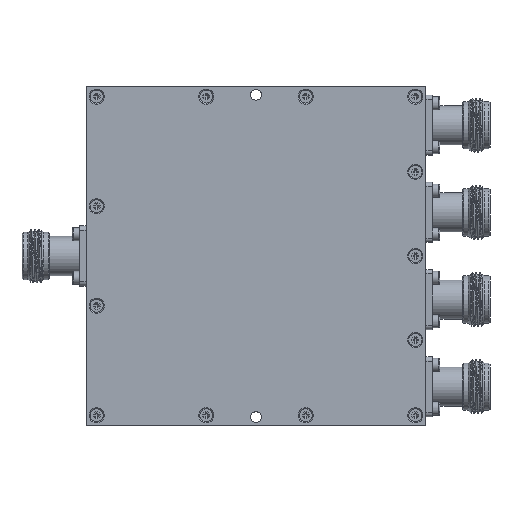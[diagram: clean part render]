
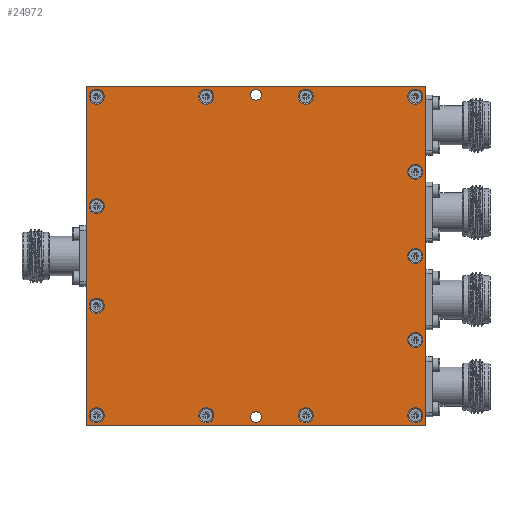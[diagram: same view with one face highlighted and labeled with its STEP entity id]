
A CAD part, top view. The second image highlights one B-rep face of the part: STEP entity #24972.
In plain terms, the highlighted planar face has unit normal (0, 0, 1).
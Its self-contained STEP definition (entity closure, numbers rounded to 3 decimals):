
#539=LINE('',#32933,#1989);
#541=LINE('',#32969,#1991);
#543=LINE('',#32973,#1993);
#545=LINE('',#32985,#1995);
#1989=VECTOR('',#27928,1000.);
#1991=VECTOR('',#27964,1000.);
#1993=VECTOR('',#27968,1000.);
#1995=VECTOR('',#27980,1000.);
#3551=PLANE('',#26408);
#5275=ORIENTED_EDGE('',*,*,#9132,.T.);
#5276=ORIENTED_EDGE('',*,*,#9126,.T.);
#5277=ORIENTED_EDGE('',*,*,#9124,.T.);
#5278=ORIENTED_EDGE('',*,*,#9106,.T.);
#5279=ORIENTED_EDGE('',*,*,#9041,.F.);
#5280=ORIENTED_EDGE('',*,*,#9039,.F.);
#5281=ORIENTED_EDGE('',*,*,#9513,.T.);
#5282=ORIENTED_EDGE('',*,*,#9514,.T.);
#5283=ORIENTED_EDGE('',*,*,#9515,.T.);
#5284=ORIENTED_EDGE('',*,*,#9516,.T.);
#5285=ORIENTED_EDGE('',*,*,#9517,.T.);
#5286=ORIENTED_EDGE('',*,*,#9518,.T.);
#5287=ORIENTED_EDGE('',*,*,#9519,.T.);
#5288=ORIENTED_EDGE('',*,*,#9520,.T.);
#5289=ORIENTED_EDGE('',*,*,#9521,.T.);
#5290=ORIENTED_EDGE('',*,*,#9522,.T.);
#5291=ORIENTED_EDGE('',*,*,#9523,.T.);
#5292=ORIENTED_EDGE('',*,*,#9524,.T.);
#5293=ORIENTED_EDGE('',*,*,#9525,.T.);
#9039=EDGE_CURVE('',#13855,#13855,#11428,.T.);
#9041=EDGE_CURVE('',#13857,#13857,#11430,.T.);
#9106=EDGE_CURVE('',#13904,#13903,#539,.T.);
#9124=EDGE_CURVE('',#13921,#13904,#541,.T.);
#9126=EDGE_CURVE('',#13922,#13921,#543,.T.);
#9132=EDGE_CURVE('',#13903,#13922,#545,.T.);
#9513=EDGE_CURVE('',#14237,#14237,#11612,.T.);
#9514=EDGE_CURVE('',#14238,#14238,#11613,.T.);
#9515=EDGE_CURVE('',#14239,#14239,#11614,.T.);
#9516=EDGE_CURVE('',#14240,#14240,#11615,.T.);
#9517=EDGE_CURVE('',#14241,#14241,#11616,.T.);
#9518=EDGE_CURVE('',#14242,#14242,#11617,.T.);
#9519=EDGE_CURVE('',#14243,#14243,#11618,.T.);
#9520=EDGE_CURVE('',#14244,#14244,#11619,.T.);
#9521=EDGE_CURVE('',#14245,#14245,#11620,.T.);
#9522=EDGE_CURVE('',#14246,#14246,#11621,.T.);
#9523=EDGE_CURVE('',#14247,#14247,#11622,.T.);
#9524=EDGE_CURVE('',#14248,#14248,#11623,.T.);
#9525=EDGE_CURVE('',#14249,#14249,#11624,.T.);
#11428=CIRCLE('',#25947,1.6);
#11430=CIRCLE('',#25950,1.6);
#11612=CIRCLE('',#26409,2.2);
#11613=CIRCLE('',#26410,2.2);
#11614=CIRCLE('',#26411,2.2);
#11615=CIRCLE('',#26412,2.2);
#11616=CIRCLE('',#26413,2.2);
#11617=CIRCLE('',#26414,2.2);
#11618=CIRCLE('',#26415,2.2);
#11619=CIRCLE('',#26416,2.2);
#11620=CIRCLE('',#26417,2.2);
#11621=CIRCLE('',#26418,2.2);
#11622=CIRCLE('',#26419,2.2);
#11623=CIRCLE('',#26420,2.2);
#11624=CIRCLE('',#26421,2.2);
#12543=EDGE_LOOP('',(#5275,#5276,#5277,#5278));
#12544=EDGE_LOOP('',(#5279));
#12545=EDGE_LOOP('',(#5280));
#12546=EDGE_LOOP('',(#5281));
#12547=EDGE_LOOP('',(#5282));
#12548=EDGE_LOOP('',(#5283));
#12549=EDGE_LOOP('',(#5284));
#12550=EDGE_LOOP('',(#5285));
#12551=EDGE_LOOP('',(#5286));
#12552=EDGE_LOOP('',(#5287));
#12553=EDGE_LOOP('',(#5288));
#12554=EDGE_LOOP('',(#5289));
#12555=EDGE_LOOP('',(#5290));
#12556=EDGE_LOOP('',(#5291));
#12557=EDGE_LOOP('',(#5292));
#12558=EDGE_LOOP('',(#5293));
#13855=VERTEX_POINT('',#32796);
#13857=VERTEX_POINT('',#32801);
#13903=VERTEX_POINT('',#32932);
#13904=VERTEX_POINT('',#32934);
#13921=VERTEX_POINT('',#32970);
#13922=VERTEX_POINT('',#32974);
#14237=VERTEX_POINT('',#34098);
#14238=VERTEX_POINT('',#34100);
#14239=VERTEX_POINT('',#34102);
#14240=VERTEX_POINT('',#34104);
#14241=VERTEX_POINT('',#34106);
#14242=VERTEX_POINT('',#34108);
#14243=VERTEX_POINT('',#34110);
#14244=VERTEX_POINT('',#34112);
#14245=VERTEX_POINT('',#34114);
#14246=VERTEX_POINT('',#34116);
#14247=VERTEX_POINT('',#34118);
#14248=VERTEX_POINT('',#34120);
#14249=VERTEX_POINT('',#34122);
#16268=FACE_BOUND('',#12543,.T.);
#16269=FACE_BOUND('',#12544,.T.);
#16270=FACE_BOUND('',#12545,.T.);
#16271=FACE_BOUND('',#12546,.T.);
#16272=FACE_BOUND('',#12547,.T.);
#16273=FACE_BOUND('',#12548,.T.);
#16274=FACE_BOUND('',#12549,.T.);
#16275=FACE_BOUND('',#12550,.T.);
#16276=FACE_BOUND('',#12551,.T.);
#16277=FACE_BOUND('',#12552,.T.);
#16278=FACE_BOUND('',#12553,.T.);
#16279=FACE_BOUND('',#12554,.T.);
#16280=FACE_BOUND('',#12555,.T.);
#16281=FACE_BOUND('',#12556,.T.);
#16282=FACE_BOUND('',#12557,.T.);
#16283=FACE_BOUND('',#12558,.T.);
#24972=ADVANCED_FACE('',(#16268,#16269,#16270,#16271,#16272,#16273,#16274,
#16275,#16276,#16277,#16278,#16279,#16280,#16281,#16282,#16283),#3551,.T.);
#25947=AXIS2_PLACEMENT_3D('',#32795,#27781,#27782);
#25950=AXIS2_PLACEMENT_3D('',#32800,#27787,#27788);
#26408=AXIS2_PLACEMENT_3D('',#34096,#28909,#28910);
#26409=AXIS2_PLACEMENT_3D('',#34097,#28911,#28912);
#26410=AXIS2_PLACEMENT_3D('',#34099,#28913,#28914);
#26411=AXIS2_PLACEMENT_3D('',#34101,#28915,#28916);
#26412=AXIS2_PLACEMENT_3D('',#34103,#28917,#28918);
#26413=AXIS2_PLACEMENT_3D('',#34105,#28919,#28920);
#26414=AXIS2_PLACEMENT_3D('',#34107,#28921,#28922);
#26415=AXIS2_PLACEMENT_3D('',#34109,#28923,#28924);
#26416=AXIS2_PLACEMENT_3D('',#34111,#28925,#28926);
#26417=AXIS2_PLACEMENT_3D('',#34113,#28927,#28928);
#26418=AXIS2_PLACEMENT_3D('',#34115,#28929,#28930);
#26419=AXIS2_PLACEMENT_3D('',#34117,#28931,#28932);
#26420=AXIS2_PLACEMENT_3D('',#34119,#28933,#28934);
#26421=AXIS2_PLACEMENT_3D('',#34121,#28935,#28936);
#27781=DIRECTION('',(0.,0.,1.));
#27782=DIRECTION('',(1.,0.,0.));
#27787=DIRECTION('',(0.,0.,1.));
#27788=DIRECTION('',(1.,0.,0.));
#27928=DIRECTION('',(-1.,0.,0.));
#27964=DIRECTION('',(0.,1.,0.));
#27968=DIRECTION('',(1.,0.,0.));
#27980=DIRECTION('',(0.,-1.,0.));
#28909=DIRECTION('',(0.,0.,1.));
#28910=DIRECTION('',(1.,0.,0.));
#28911=DIRECTION('',(0.,0.,-1.));
#28912=DIRECTION('',(0.,1.,0.));
#28913=DIRECTION('',(0.,0.,-1.));
#28914=DIRECTION('',(0.,1.,0.));
#28915=DIRECTION('',(0.,0.,-1.));
#28916=DIRECTION('',(0.,1.,0.));
#28917=DIRECTION('',(0.,0.,-1.));
#28918=DIRECTION('',(0.,1.,0.));
#28919=DIRECTION('',(0.,0.,-1.));
#28920=DIRECTION('',(0.,1.,0.));
#28921=DIRECTION('',(0.,0.,-1.));
#28922=DIRECTION('',(0.,1.,0.));
#28923=DIRECTION('',(0.,0.,-1.));
#28924=DIRECTION('',(0.,1.,0.));
#28925=DIRECTION('',(0.,0.,-1.));
#28926=DIRECTION('',(0.,1.,0.));
#28927=DIRECTION('',(0.,0.,-1.));
#28928=DIRECTION('',(0.,1.,0.));
#28929=DIRECTION('',(0.,0.,-1.));
#28930=DIRECTION('',(0.,1.,0.));
#28931=DIRECTION('',(0.,0.,-1.));
#28932=DIRECTION('',(0.,1.,0.));
#28933=DIRECTION('',(0.,0.,-1.));
#28934=DIRECTION('',(0.,1.,0.));
#28935=DIRECTION('',(0.,0.,-1.));
#28936=DIRECTION('',(0.,1.,0.));
#32795=CARTESIAN_POINT('',(0.,-46.96,2.));
#32796=CARTESIAN_POINT('',(1.6,-46.96,2.));
#32800=CARTESIAN_POINT('',(0.,46.96,2.));
#32801=CARTESIAN_POINT('',(1.6,46.96,2.));
#32932=CARTESIAN_POINT('',(-49.5,49.5,2.));
#32933=CARTESIAN_POINT('',(49.5,49.5,2.));
#32934=CARTESIAN_POINT('',(49.5,49.5,2.));
#32969=CARTESIAN_POINT('',(49.5,-49.5,2.));
#32970=CARTESIAN_POINT('',(49.5,-49.5,2.));
#32973=CARTESIAN_POINT('',(-49.5,-49.5,2.));
#32974=CARTESIAN_POINT('',(-49.5,-49.5,2.));
#32985=CARTESIAN_POINT('',(-49.5,49.5,2.));
#34096=CARTESIAN_POINT('',(0.,0.,2.));
#34097=CARTESIAN_POINT('',(-46.45,46.45,2.));
#34098=CARTESIAN_POINT('',(-46.45,48.65,2.));
#34099=CARTESIAN_POINT('',(-14.5,46.45,2.));
#34100=CARTESIAN_POINT('',(-14.5,48.65,2.));
#34101=CARTESIAN_POINT('',(14.5,46.45,2.));
#34102=CARTESIAN_POINT('',(14.5,48.65,2.));
#34103=CARTESIAN_POINT('',(46.45,46.45,2.));
#34104=CARTESIAN_POINT('',(46.45,48.65,2.));
#34105=CARTESIAN_POINT('',(46.45,24.5,2.));
#34106=CARTESIAN_POINT('',(46.45,26.7,2.));
#34107=CARTESIAN_POINT('',(46.45,0.,2.));
#34108=CARTESIAN_POINT('',(46.45,2.2,2.));
#34109=CARTESIAN_POINT('',(46.45,-24.5,2.));
#34110=CARTESIAN_POINT('',(46.45,-22.3,2.));
#34111=CARTESIAN_POINT('',(46.45,-46.45,2.));
#34112=CARTESIAN_POINT('',(46.45,-44.25,2.));
#34113=CARTESIAN_POINT('',(14.5,-46.45,2.));
#34114=CARTESIAN_POINT('',(14.5,-44.25,2.));
#34115=CARTESIAN_POINT('',(-14.5,-46.45,2.));
#34116=CARTESIAN_POINT('',(-14.5,-44.25,2.));
#34117=CARTESIAN_POINT('',(-46.45,-46.45,2.));
#34118=CARTESIAN_POINT('',(-46.45,-44.25,2.));
#34119=CARTESIAN_POINT('',(-46.45,-14.5,2.));
#34120=CARTESIAN_POINT('',(-46.45,-12.3,2.));
#34121=CARTESIAN_POINT('',(-46.45,14.5,2.));
#34122=CARTESIAN_POINT('',(-46.45,16.7,2.));
